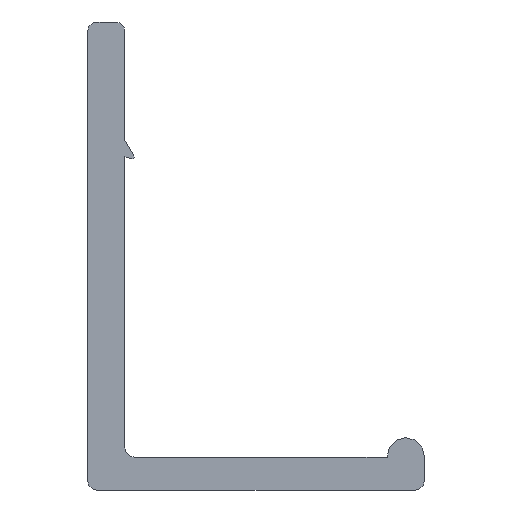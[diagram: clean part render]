
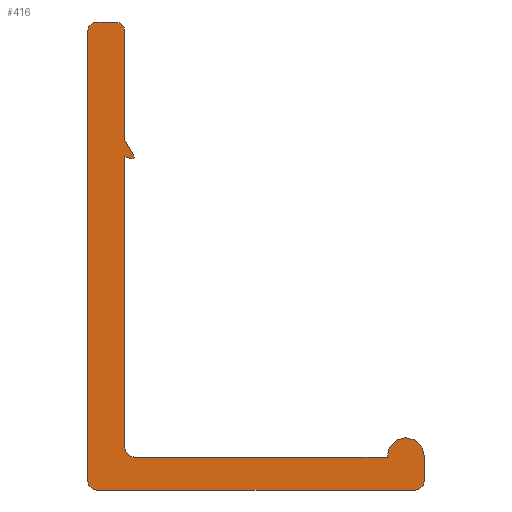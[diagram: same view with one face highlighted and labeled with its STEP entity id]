
A CAD part, left-side view. The second image highlights one B-rep face of the part: STEP entity #416.
In plain terms, the highlighted planar face has unit normal (-1, 0, 0).
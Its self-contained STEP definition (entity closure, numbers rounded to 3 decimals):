
#3 = VERTEX_POINT ( 'NONE', #181 ) ;
#5 = DIRECTION ( 'NONE',  ( 0., 0., -1. ) ) ;
#6 = VECTOR ( 'NONE', #435, 1000. ) ;
#9 = CARTESIAN_POINT ( 'NONE',  ( 0., -2., 24.5 ) ) ;
#10 = AXIS2_PLACEMENT_3D ( 'NONE', #415, #326, #68 ) ;
#12 = CIRCLE ( 'NONE', #118, 0.1 ) ;
#14 = ORIENTED_EDGE ( 'NONE', *, *, #72, .F. ) ;
#15 = EDGE_CURVE ( 'NONE', #451, #101, #250, .T. ) ;
#16 = CARTESIAN_POINT ( 'NONE',  ( 0., -0.5, 0. ) ) ;
#22 = AXIS2_PLACEMENT_3D ( 'NONE', #275, #25, #609 ) ;
#25 = DIRECTION ( 'NONE',  ( 1., 0., 0. ) ) ;
#31 = DIRECTION ( 'NONE',  ( 0., 0.966, 0.259 ) ) ;
#37 = CARTESIAN_POINT ( 'NONE',  ( 0., -0.5, 0.5 ) ) ;
#39 = LINE ( 'NONE', #425, #245 ) ;
#47 = CARTESIAN_POINT ( 'NONE',  ( 0., -0.5, 25. ) ) ;
#49 = CIRCLE ( 'NONE', #83, 0.5 ) ;
#53 = VERTEX_POINT ( 'NONE', #313 ) ;
#55 = LINE ( 'NONE', #478, #308 ) ;
#58 = ORIENTED_EDGE ( 'NONE', *, *, #575, .F. ) ;
#61 = ORIENTED_EDGE ( 'NONE', *, *, #640, .F. ) ;
#63 = VERTEX_POINT ( 'NONE', #335 ) ;
#68 = DIRECTION ( 'NONE',  ( 0., 0., -1. ) ) ;
#71 = CARTESIAN_POINT ( 'NONE',  ( 0., 0., 0.5 ) ) ;
#72 = EDGE_CURVE ( 'NONE', #357, #406, #134, .T. ) ;
#79 = ORIENTED_EDGE ( 'NONE', *, *, #213, .F. ) ;
#83 = AXIS2_PLACEMENT_3D ( 'NONE', #600, #168, #513 ) ;
#84 = CARTESIAN_POINT ( 'NONE',  ( 0., -2., 18.676 ) ) ;
#96 = EDGE_CURVE ( 'NONE', #566, #63, #295, .T. ) ;
#98 = AXIS2_PLACEMENT_3D ( 'NONE', #37, #535, #244 ) ;
#101 = VERTEX_POINT ( 'NONE', #430 ) ;
#110 = VECTOR ( 'NONE', #184, 1000. ) ;
#118 = AXIS2_PLACEMENT_3D ( 'NONE', #122, #599, #120 ) ;
#120 = DIRECTION ( 'NONE',  ( 0., 0., -1. ) ) ;
#122 = CARTESIAN_POINT ( 'NONE',  ( 0., -2.393, 17.796 ) ) ;
#130 = CARTESIAN_POINT ( 'NONE',  ( 0., -2.5, 1.75 ) ) ;
#134 = CIRCLE ( 'NONE', #561, 0.5 ) ;
#135 = ORIENTED_EDGE ( 'NONE', *, *, #338, .F. ) ;
#142 = VERTEX_POINT ( 'NONE', #228 ) ;
#150 = EDGE_CURVE ( 'NONE', #156, #296, #545, .T. ) ;
#156 = VERTEX_POINT ( 'NONE', #130 ) ;
#168 = DIRECTION ( 'NONE',  ( 1., 0., 0. ) ) ;
#181 = CARTESIAN_POINT ( 'NONE',  ( 0., -0.5, 25. ) ) ;
#184 = DIRECTION ( 'NONE',  ( 0., 0., -1. ) ) ;
#186 = CIRCLE ( 'NONE', #242, 1. ) ;
#187 = CARTESIAN_POINT ( 'NONE',  ( 0., -2.5, 1.75 ) ) ;
#193 = CARTESIAN_POINT ( 'NONE',  ( 0., -2., 17.797 ) ) ;
#196 = ORIENTED_EDGE ( 'NONE', *, *, #230, .F. ) ;
#200 = EDGE_LOOP ( 'NONE', ( #135, #353, #79, #526, #407, #602, #590, #363, #196, #418, #491, #61, #356, #615, #14, #225, #58 ) ) ;
#202 = EDGE_CURVE ( 'NONE', #406, #265, #39, .T. ) ;
#213 = EDGE_CURVE ( 'NONE', #63, #156, #610, .T. ) ;
#219 = DIRECTION ( 'NONE',  ( 0., 0., -1. ) ) ;
#225 = ORIENTED_EDGE ( 'NONE', *, *, #595, .F. ) ;
#228 = CARTESIAN_POINT ( 'NONE',  ( 0., -18., 1.797 ) ) ;
#230 = EDGE_CURVE ( 'NONE', #635, #286, #546, .T. ) ;
#242 = AXIS2_PLACEMENT_3D ( 'NONE', #463, #461, #5 ) ;
#244 = DIRECTION ( 'NONE',  ( 0., 0., -1. ) ) ;
#245 = VECTOR ( 'NONE', #437, 1000. ) ;
#250 = LINE ( 'NONE', #84, #6 ) ;
#260 = CARTESIAN_POINT ( 'NONE',  ( 0., 0., 24.5 ) ) ;
#265 = VERTEX_POINT ( 'NONE', #16 ) ;
#266 = LINE ( 'NONE', #588, #312 ) ;
#269 = CARTESIAN_POINT ( 'NONE',  ( 0., -18., 0.5 ) ) ;
#275 = CARTESIAN_POINT ( 'NONE',  ( 0., -17., 1.797 ) ) ;
#280 = DIRECTION ( 'NONE',  ( 1., 0., 0. ) ) ;
#282 = VECTOR ( 'NONE', #618, 1000. ) ;
#284 = AXIS2_PLACEMENT_3D ( 'NONE', #633, #631, #348 ) ;
#286 = VERTEX_POINT ( 'NONE', #9 ) ;
#295 = LINE ( 'NONE', #529, #110 ) ;
#296 = VERTEX_POINT ( 'NONE', #563 ) ;
#300 = VECTOR ( 'NONE', #396, 1000. ) ;
#302 = DIRECTION ( 'NONE',  ( 0., 0., 1. ) ) ;
#308 = VECTOR ( 'NONE', #470, 1000. ) ;
#312 = VECTOR ( 'NONE', #302, 1000. ) ;
#313 = CARTESIAN_POINT ( 'NONE',  ( 0., -17., 2.797 ) ) ;
#314 = VERTEX_POINT ( 'NONE', #71 ) ;
#322 = EDGE_CURVE ( 'NONE', #350, #3, #49, .T. ) ;
#326 = DIRECTION ( 'NONE',  ( 1., 0., 0. ) ) ;
#330 = PLANE ( 'NONE',  #22 ) ;
#335 = CARTESIAN_POINT ( 'NONE',  ( 0., -2., 2.25 ) ) ;
#338 = EDGE_CURVE ( 'NONE', #296, #53, #186, .T. ) ;
#347 = AXIS2_PLACEMENT_3D ( 'NONE', #390, #387, #581 ) ;
#348 = DIRECTION ( 'NONE',  ( 0., 0., -1. ) ) ;
#350 = VERTEX_POINT ( 'NONE', #260 ) ;
#353 = ORIENTED_EDGE ( 'NONE', *, *, #150, .F. ) ;
#356 = ORIENTED_EDGE ( 'NONE', *, *, #644, .F. ) ;
#357 = VERTEX_POINT ( 'NONE', #269 ) ;
#363 = ORIENTED_EDGE ( 'NONE', *, *, #432, .F. ) ;
#371 = CARTESIAN_POINT ( 'NONE',  ( 0., -17.5, 0.5 ) ) ;
#387 = DIRECTION ( 'NONE',  ( -1., 0., 0. ) ) ;
#389 = EDGE_CURVE ( 'NONE', #101, #400, #12, .T. ) ;
#390 = CARTESIAN_POINT ( 'NONE',  ( 0., -2.5, 2.25 ) ) ;
#392 = CARTESIAN_POINT ( 'NONE',  ( 0., -18., 1.797 ) ) ;
#396 = DIRECTION ( 'NONE',  ( 0., -1., 0. ) ) ;
#400 = VERTEX_POINT ( 'NONE', #565 ) ;
#406 = VERTEX_POINT ( 'NONE', #509 ) ;
#407 = ORIENTED_EDGE ( 'NONE', *, *, #486, .F. ) ;
#412 = VECTOR ( 'NONE', #31, 1000. ) ;
#415 = CARTESIAN_POINT ( 'NONE',  ( 0., -1.5, 24.5 ) ) ;
#416 = ADVANCED_FACE ( 'NONE', ( #629 ), #330, .F. ) ;
#418 = ORIENTED_EDGE ( 'NONE', *, *, #598, .F. ) ;
#425 = CARTESIAN_POINT ( 'NONE',  ( 0., -17.5, 0. ) ) ;
#426 = CARTESIAN_POINT ( 'NONE',  ( 0., -2., 18.676 ) ) ;
#430 = CARTESIAN_POINT ( 'NONE',  ( 0., -2.479, 17.846 ) ) ;
#432 = EDGE_CURVE ( 'NONE', #286, #451, #55, .T. ) ;
#435 = DIRECTION ( 'NONE',  ( 0., -0.5, -0.866 ) ) ;
#436 = CARTESIAN_POINT ( 'NONE',  ( 0., -2.367, 17.699 ) ) ;
#437 = DIRECTION ( 'NONE',  ( 0., 1., 0. ) ) ;
#444 = LINE ( 'NONE', #436, #412 ) ;
#451 = VERTEX_POINT ( 'NONE', #426 ) ;
#461 = DIRECTION ( 'NONE',  ( 1., 0., 0. ) ) ;
#463 = CARTESIAN_POINT ( 'NONE',  ( 0., -17., 1.797 ) ) ;
#470 = DIRECTION ( 'NONE',  ( 0., 0., -1. ) ) ;
#478 = CARTESIAN_POINT ( 'NONE',  ( 0., -2., 24.5 ) ) ;
#484 = CARTESIAN_POINT ( 'NONE',  ( 0., -1.5, 25. ) ) ;
#486 = EDGE_CURVE ( 'NONE', #400, #566, #444, .T. ) ;
#488 = VECTOR ( 'NONE', #586, 1000. ) ;
#491 = ORIENTED_EDGE ( 'NONE', *, *, #322, .F. ) ;
#500 = CIRCLE ( 'NONE', #98, 0.5 ) ;
#509 = CARTESIAN_POINT ( 'NONE',  ( 0., -17.5, 0. ) ) ;
#513 = DIRECTION ( 'NONE',  ( 0., 0., -1. ) ) ;
#526 = ORIENTED_EDGE ( 'NONE', *, *, #96, .F. ) ;
#529 = CARTESIAN_POINT ( 'NONE',  ( 0., -2., 17.797 ) ) ;
#535 = DIRECTION ( 'NONE',  ( 1., 0., 0. ) ) ;
#545 = LINE ( 'NONE', #187, #282 ) ;
#546 = CIRCLE ( 'NONE', #10, 0.5 ) ;
#561 = AXIS2_PLACEMENT_3D ( 'NONE', #371, #280, #219 ) ;
#563 = CARTESIAN_POINT ( 'NONE',  ( 0., -16.001, 1.75 ) ) ;
#565 = CARTESIAN_POINT ( 'NONE',  ( 0., -2.367, 17.699 ) ) ;
#566 = VERTEX_POINT ( 'NONE', #193 ) ;
#575 = EDGE_CURVE ( 'NONE', #53, #142, #639, .T. ) ;
#581 = DIRECTION ( 'NONE',  ( 0., 0., -1. ) ) ;
#586 = DIRECTION ( 'NONE',  ( 0., 0., -1. ) ) ;
#587 = LINE ( 'NONE', #47, #300 ) ;
#588 = CARTESIAN_POINT ( 'NONE',  ( 0., 0., 0.5 ) ) ;
#590 = ORIENTED_EDGE ( 'NONE', *, *, #15, .F. ) ;
#595 = EDGE_CURVE ( 'NONE', #142, #357, #616, .T. ) ;
#598 = EDGE_CURVE ( 'NONE', #3, #635, #587, .T. ) ;
#599 = DIRECTION ( 'NONE',  ( 1., 0., 0. ) ) ;
#600 = CARTESIAN_POINT ( 'NONE',  ( 0., -0.5, 24.5 ) ) ;
#602 = ORIENTED_EDGE ( 'NONE', *, *, #389, .F. ) ;
#609 = DIRECTION ( 'NONE',  ( 0., 0., -1. ) ) ;
#610 = CIRCLE ( 'NONE', #347, 0.5 ) ;
#615 = ORIENTED_EDGE ( 'NONE', *, *, #202, .F. ) ;
#616 = LINE ( 'NONE', #392, #488 ) ;
#618 = DIRECTION ( 'NONE',  ( 0., -1., 0. ) ) ;
#629 = FACE_OUTER_BOUND ( 'NONE', #200, .T. ) ;
#631 = DIRECTION ( 'NONE',  ( 1., 0., 0. ) ) ;
#633 = CARTESIAN_POINT ( 'NONE',  ( 0., -17., 1.797 ) ) ;
#635 = VERTEX_POINT ( 'NONE', #484 ) ;
#639 = CIRCLE ( 'NONE', #284, 1. ) ;
#640 = EDGE_CURVE ( 'NONE', #314, #350, #266, .T. ) ;
#644 = EDGE_CURVE ( 'NONE', #265, #314, #500, .T. ) ;
